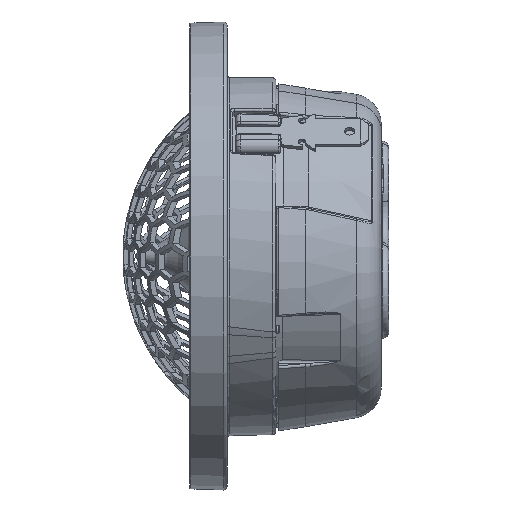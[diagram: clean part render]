
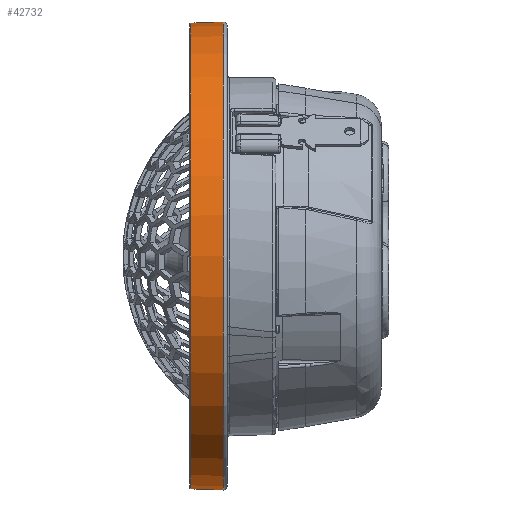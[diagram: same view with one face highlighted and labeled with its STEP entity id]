
A CAD part, left-side view. The second image highlights one B-rep face of the part: STEP entity #42732.
In plain terms, the highlighted conical face has half-angle 2 degrees and reference radius 31.125 mm.
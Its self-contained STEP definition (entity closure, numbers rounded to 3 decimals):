
#2224 = VERTEX_POINT ( 'NONE', #68960 ) ;
#3208 = ORIENTED_EDGE ( 'NONE', *, *, #69564, .F. ) ;
#3357 = AXIS2_PLACEMENT_3D ( 'NONE', #7574, #63026, #68930 ) ;
#7050 = DIRECTION ( 'NONE',  ( 0., 0., 1. ) ) ;
#7574 = CARTESIAN_POINT ( 'NONE',  ( 0., 20.483, 0. ) ) ;
#11096 = ORIENTED_EDGE ( 'NONE', *, *, #22995, .T. ) ;
#12606 = CARTESIAN_POINT ( 'NONE',  ( 0., 25.284, 0. ) ) ;
#12892 = EDGE_CURVE ( 'NONE', #14923, #2224, #66985, .T. ) ;
#13699 = VECTOR ( 'NONE', #22451, 1000. ) ;
#14573 = CARTESIAN_POINT ( 'NONE',  ( 0., 20.995, 0. ) ) ;
#14763 = DIRECTION ( 'NONE',  ( 0., -0.999, 0.035 ) ) ;
#14923 = VERTEX_POINT ( 'NONE', #32472 ) ;
#19080 = FACE_OUTER_BOUND ( 'NONE', #71854, .T. ) ;
#22451 = DIRECTION ( 'NONE',  ( 0., -0.999, -0.035 ) ) ;
#22640 = VERTEX_POINT ( 'NONE', #67798 ) ;
#22995 = EDGE_CURVE ( 'NONE', #39176, #14923, #76311, .T. ) ;
#25238 = AXIS2_PLACEMENT_3D ( 'NONE', #14573, #45053, #74336 ) ;
#32147 = AXIS2_PLACEMENT_3D ( 'NONE', #12606, #78324, #7050 ) ;
#32472 = CARTESIAN_POINT ( 'NONE',  ( 0., 20.995, -31.107 ) ) ;
#39176 = VERTEX_POINT ( 'NONE', #62996 ) ;
#42732 = ADVANCED_FACE ( 'NONE', ( #19080 ), #48845, .T. ) ;
#45053 = DIRECTION ( 'NONE',  ( 0., 1., 0. ) ) ;
#48464 = LINE ( 'NONE', #72620, #58560 ) ;
#48845 = CONICAL_SURFACE ( 'NONE', #3357, 31.125, 0.035 ) ;
#57353 = CARTESIAN_POINT ( 'NONE',  ( 0., 20.483, -31.125 ) ) ;
#57966 = EDGE_CURVE ( 'NONE', #22640, #39176, #75173, .T. ) ;
#58560 = VECTOR ( 'NONE', #14763, 1000. ) ;
#62996 = CARTESIAN_POINT ( 'NONE',  ( 0., 25.284, -30.957 ) ) ;
#63026 = DIRECTION ( 'NONE',  ( 0., -1., 0. ) ) ;
#66985 = CIRCLE ( 'NONE', #25238, 31.107 ) ;
#67798 = CARTESIAN_POINT ( 'NONE',  ( 0., 25.284, 30.957 ) ) ;
#68930 = DIRECTION ( 'NONE',  ( 0., 0., 1. ) ) ;
#68960 = CARTESIAN_POINT ( 'NONE',  ( 0., 20.995, 31.107 ) ) ;
#69533 = ORIENTED_EDGE ( 'NONE', *, *, #12892, .T. ) ;
#69564 = EDGE_CURVE ( 'NONE', #22640, #2224, #48464, .T. ) ;
#71854 = EDGE_LOOP ( 'NONE', ( #72006, #11096, #69533, #3208 ) ) ;
#72006 = ORIENTED_EDGE ( 'NONE', *, *, #57966, .T. ) ;
#72620 = CARTESIAN_POINT ( 'NONE',  ( 0., 20.483, 31.125 ) ) ;
#74336 = DIRECTION ( 'NONE',  ( 0., 0., -1. ) ) ;
#75173 = CIRCLE ( 'NONE', #32147, 30.957 ) ;
#76311 = LINE ( 'NONE', #57353, #13699 ) ;
#78324 = DIRECTION ( 'NONE',  ( 0., -1., 0. ) ) ;
